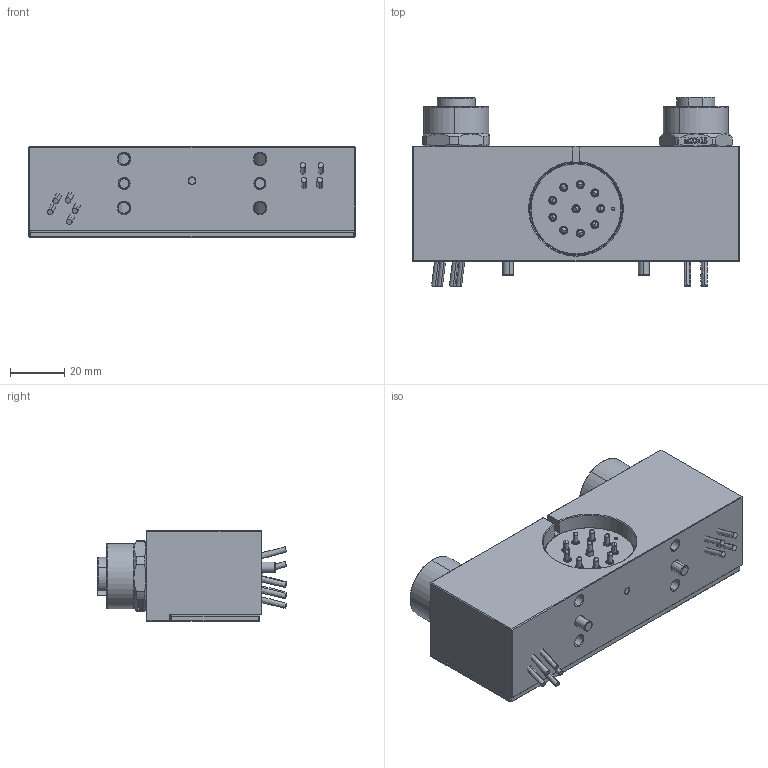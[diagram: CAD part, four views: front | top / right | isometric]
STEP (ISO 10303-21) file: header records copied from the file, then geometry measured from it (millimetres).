
FILE_DESCRIPTION(/* description */ (''),/* implementation_level */ '2;1');
FILE_NAME(/* name */ 'G.stp',/* time_stamp */ '2025-02-21T09:24:53+08:00',/* author */ (''),/* organization */ (''),/* preprocessor_version */ 'ST-DEVELOPER v16.7',/* originating_system */ 'SIEMENS PLM Software NX 12.0',/* authorisation */ '');
FILE_SCHEMA (('AUTOMOTIVE_DESIGN { 1 0 10303 214 3 1 1 1 }'));
Products named in the file (1): _model74
Bounding box: 120.2 x 69.67 x 33.5 mm (x, y, z)
Volume: 198496.5 mm3; surface area: 75419.1 mm2
Topology: 32 solids, 32 shells, 2927 faces, 7561 edges, 4807 vertices
Faces by surface type: plane 1526, cylinder 557, cone 459, bspline 202, torus 163, sphere 20
Full cylindrical faces by diameter (mm): 37.319 x1
Entity records: 108959 total; most frequent: CARTESIAN_POINT 38974, ORIENTED_EDGE 14940, DIRECTION 13693, EDGE_CURVE 7470, VERTEX_POINT 4783, AXIS2_PLACEMENT_3D 4667, LINE 4359, VECTOR 4359
